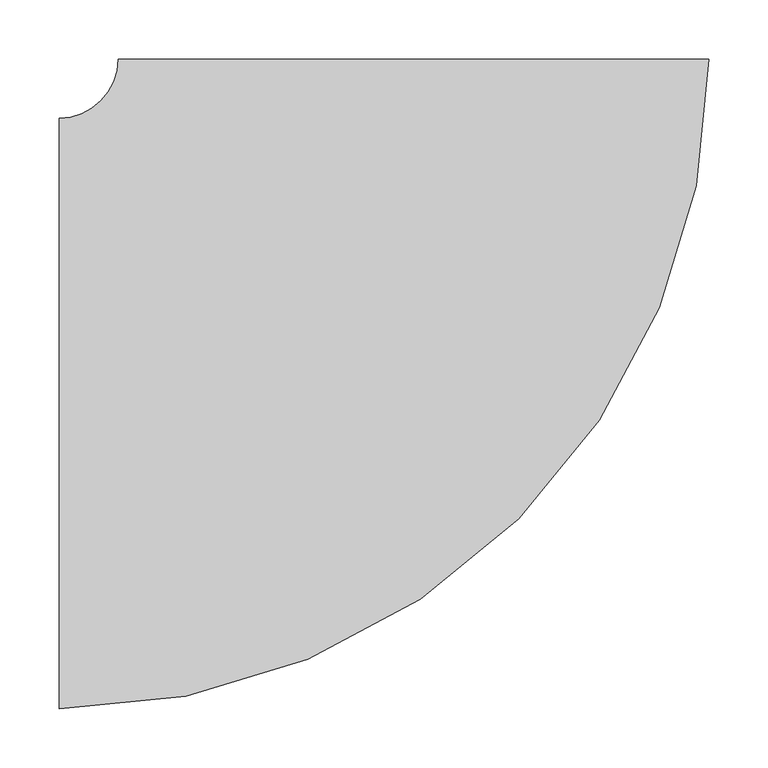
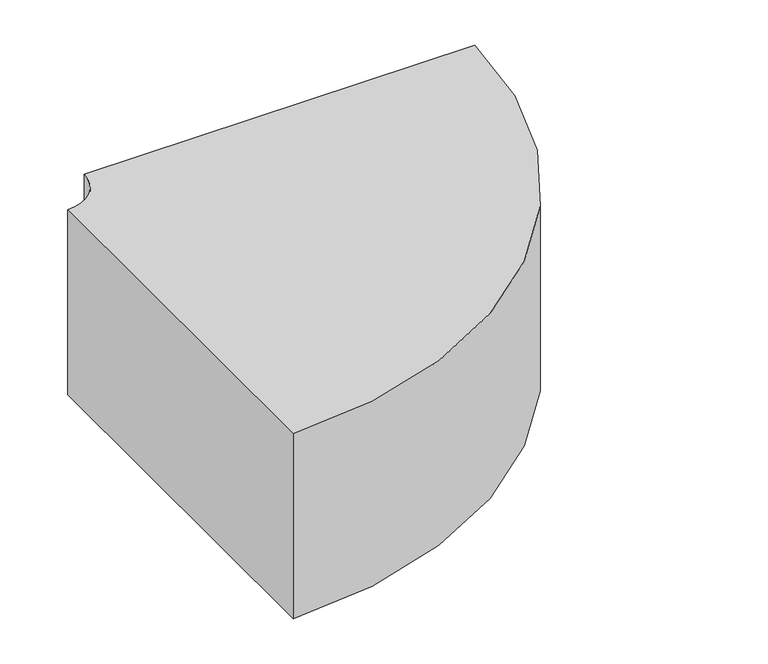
"""IFC4 building model written with IfcOpenShell, lengths in millimetres: duct fitting geometry, ADSK_ОтводВоздуховодов_Прямоугольный1 : Стандарт 2."""

from ifc_helpers import new_model, si_unit, point, frame, frame_2d, origin, place, context, project, spatial, polyline, circle_curve, trimmed, segment, composite_curve, outline, extrude, source, transform, mapped, element, save


def duct_fitting_946d3545(model_context):
    return source(origin(), model_context, "Body", "SweptSolid", [
        extrude(outline(composite_curve([segment(trimmed(circle_curve(frame_2d((-300.0, 300.0)), 550.0), [point((250.0, 300.0))], [point((-300.0, -250.0))], False, "CARTESIAN"), True, "CONTINUOUS"), segment(polyline([(-300.0, -250.0), (-300.0, 250.0)]), True, "CONTINUOUS"), segment(trimmed(circle_curve(frame_2d((-300.0, 300.0)), 50.0), [point((-300.0, 250.0))], [point((-250.0, 300.0))], True, "CARTESIAN"), True, "CONTINUOUS"), segment(polyline([(-250.0, 300.0), (250.0, 300.0)]), True, "CONTINUOUS")], self_intersect=False)), frame((0.0, 0.0, -125.0), z_axis=(0.0, 0.0, 1.0), x_axis=(1.0, 0.0, 0.0)), (0.0, 0.0, 1.0), 250.0),
    ])


if __name__ == "__main__":
    model = new_model("IFC4")
    model_context = context("Model", 3, world=origin())
    ifc_project = project(units=[si_unit("LENGTHUNIT", "METRE", prefix="MILLI")], contexts=[model_context])
    site = spatial("IfcSite", under=ifc_project)
    building = spatial("IfcBuilding", under=site)
    placement = place(None, origin())
    duct_fitting_shape = duct_fitting_946d3545(model_context)
    element("IfcDuctFitting", 1, ObjectType="ADSK_ОтводВоздуховодов_Прямоугольный1 : Стандарт 2", at=placement, inside=building, context=model_context, shape_type="MappedRepresentation", body=[
        mapped(duct_fitting_shape, transform((0.0, 0.0, 0.0), x_axis=(1.0, 0.0, 0.0), y_axis=(0.0, 1.0, 0.0), z_axis=(0.0, 0.0, 1.0))),
    ])
    save(model, "model.ifc")
